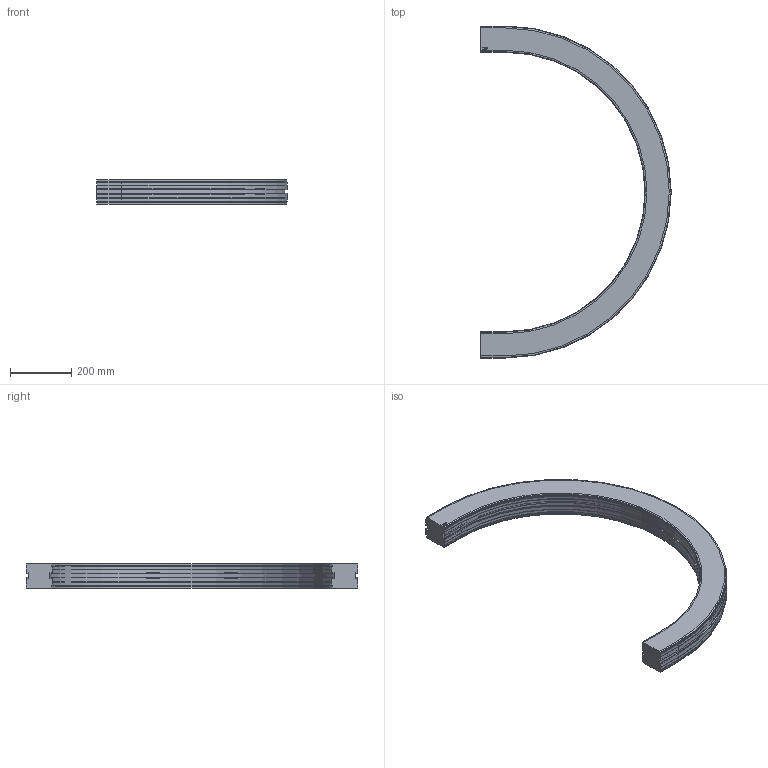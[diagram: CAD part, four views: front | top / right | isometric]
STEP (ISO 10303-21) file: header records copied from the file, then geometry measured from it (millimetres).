
FILE_DESCRIPTION((''),'2;1');
FILE_NAME('C:\Vault Klient\Projekt\Koncept konstruktion\Serie 830 Balk\830-5320.stp','2009-11-27T10:18:13',('Mathias'),(''),'Autodesk Inventor 2010','Autodesk Inventor 2010','');
FILE_SCHEMA(('AUTOMOTIVE_DESIGN { 1 0 10303 214 1 1 1 1 }'));
Length unit declared in the file: millimetre
Products named in the file (1): 830-5320
Bounding box: 623 x 1086 x 81.5 mm (x, y, z)
Volume: 11504401.9 mm3; surface area: 720496.2 mm2
Topology: 1 solids, 1 shells, 169 faces, 446 edges, 284 vertices
Faces by surface type: plane 109, cylinder 30, bspline 14, cone 12, torus 4
Entity records: 5295 total; most frequent: CARTESIAN_POINT 1094, ORIENTED_EDGE 892, DIRECTION 802, EDGE_CURVE 446, VECTOR 346, LINE 346, VERTEX_POINT 284, AXIS2_PLACEMENT_3D 228
